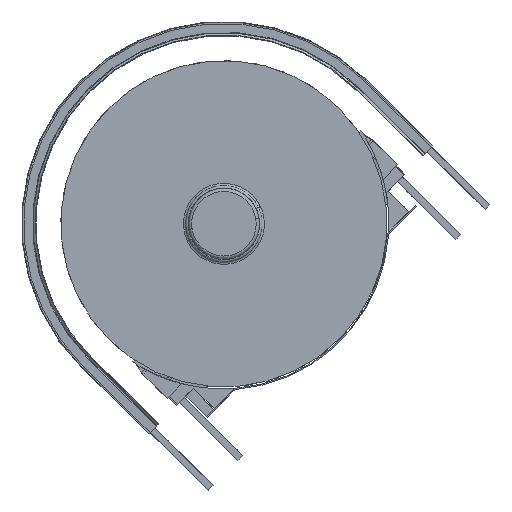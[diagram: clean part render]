
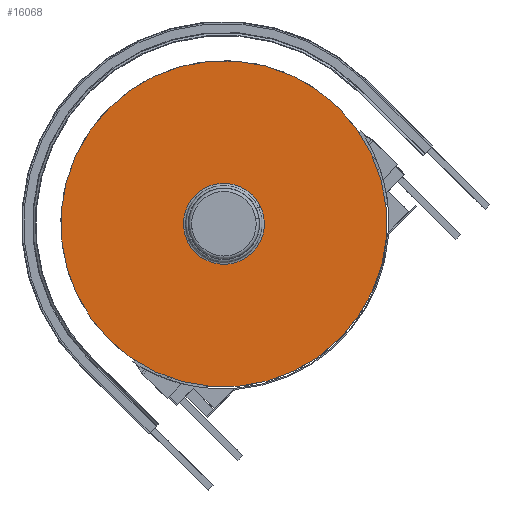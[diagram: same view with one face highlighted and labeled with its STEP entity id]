
A CAD part, left-side view. The second image highlights one B-rep face of the part: STEP entity #16068.
In plain terms, the highlighted planar face has unit normal (-1, 0, 0) as drawn and (0, 0, 1) by its records, which use the part's own axes.
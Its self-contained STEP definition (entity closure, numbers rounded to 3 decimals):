
#156 = EDGE_LOOP ( 'NONE', ( #16481, #16482 ) ) ;
#319 = CARTESIAN_POINT ( 'NONE',  ( 756.8, 0., 21.9 ) ) ;
#325 = CARTESIAN_POINT ( 'NONE',  ( 930.3, 0., 21.9 ) ) ;
#328 = CARTESIAN_POINT ( 'NONE',  ( 861.3, 0., 21.9 ) ) ;
#10209 = VERTEX_POINT ( 'NONE', #319 ) ;
#10215 = VERTEX_POINT ( 'NONE', #325 ) ;
#10218 = VERTEX_POINT ( 'NONE', #328 ) ;
#15888 = EDGE_CURVE ( 'NONE', #10215, #10218, #21994, .T. ) ;
#15915 = EDGE_CURVE ( 'NONE', #10209, #17026, #22039, .T. ) ;
#15969 = EDGE_CURVE ( 'NONE', #10218, #10215, #22088, .T. ) ;
#15970 = EDGE_CURVE ( 'NONE', #17026, #10209, #22090, .T. ) ;
#16068 = ADVANCED_FACE ( 'NONE', ( #23055, #23061 ), #23062, .F. ) ;
#16481 = ORIENTED_EDGE ( 'NONE', *, *, #15969, .T. ) ;
#16482 = ORIENTED_EDGE ( 'NONE', *, *, #15888, .T. ) ;
#16483 = ORIENTED_EDGE ( 'NONE', *, *, #15915, .F. ) ;
#16484 = ORIENTED_EDGE ( 'NONE', *, *, #15970, .F. ) ;
#17026 = VERTEX_POINT ( 'NONE', #26157 ) ;
#21385 = CARTESIAN_POINT ( 'NONE',  ( 895.8, 0., 21.9 ) ) ;
#21386 = DIRECTION ( 'NONE',  ( 0., 0., -1. ) ) ;
#21387 = DIRECTION ( 'NONE',  ( -1., 0., 0. ) ) ;
#21478 = CARTESIAN_POINT ( 'NONE',  ( 895.8, 0., 21.9 ) ) ;
#21479 = DIRECTION ( 'NONE',  ( 0., 0., -1. ) ) ;
#21480 = DIRECTION ( 'NONE',  ( -1., 0., 0. ) ) ;
#21994 = CIRCLE ( 'NONE', #21999, 34.5 ) ;
#21999 = AXIS2_PLACEMENT_3D ( 'NONE', #21385, #21386, #21387 ) ;
#22039 = CIRCLE ( 'NONE', #22041, 139. ) ;
#22041 = AXIS2_PLACEMENT_3D ( 'NONE', #21478, #21479, #21480 ) ;
#22088 = CIRCLE ( 'NONE', #22091, 34.5 ) ;
#22090 = CIRCLE ( 'NONE', #22093, 139. ) ;
#22091 = AXIS2_PLACEMENT_3D ( 'NONE', #22620, #22621, #22622 ) ;
#22093 = AXIS2_PLACEMENT_3D ( 'NONE', #22623, #22624, #22625 ) ;
#22191 = AXIS2_PLACEMENT_3D ( 'NONE', #23059, #23057, #23064 ) ;
#22310 = EDGE_LOOP ( 'NONE', ( #16483, #16484 ) ) ;
#22620 = CARTESIAN_POINT ( 'NONE',  ( 895.8, 0., 21.9 ) ) ;
#22621 = DIRECTION ( 'NONE',  ( 0., 0., -1. ) ) ;
#22622 = DIRECTION ( 'NONE',  ( -1., 0., 0. ) ) ;
#22623 = CARTESIAN_POINT ( 'NONE',  ( 895.8, 0., 21.9 ) ) ;
#22624 = DIRECTION ( 'NONE',  ( 0., 0., -1. ) ) ;
#22625 = DIRECTION ( 'NONE',  ( -1., 0., 0. ) ) ;
#23055 = FACE_BOUND ( 'NONE', #156, .T. ) ;
#23057 = DIRECTION ( 'NONE',  ( 0., 0., -1. ) ) ;
#23059 = CARTESIAN_POINT ( 'NONE',  ( 895.8, 0., 21.9 ) ) ;
#23061 = FACE_OUTER_BOUND ( 'NONE', #22310, .T. ) ;
#23062 = PLANE ( 'NONE',  #22191 ) ;
#23064 = DIRECTION ( 'NONE',  ( -1., 0., 0. ) ) ;
#26157 = CARTESIAN_POINT ( 'NONE',  ( 1034.8, 0., 21.9 ) ) ;
